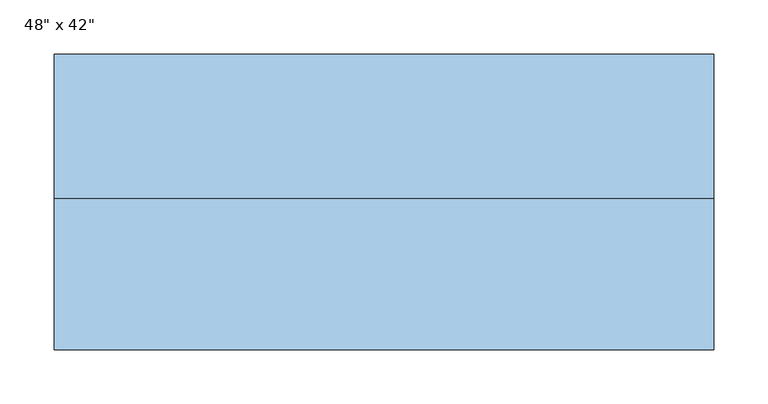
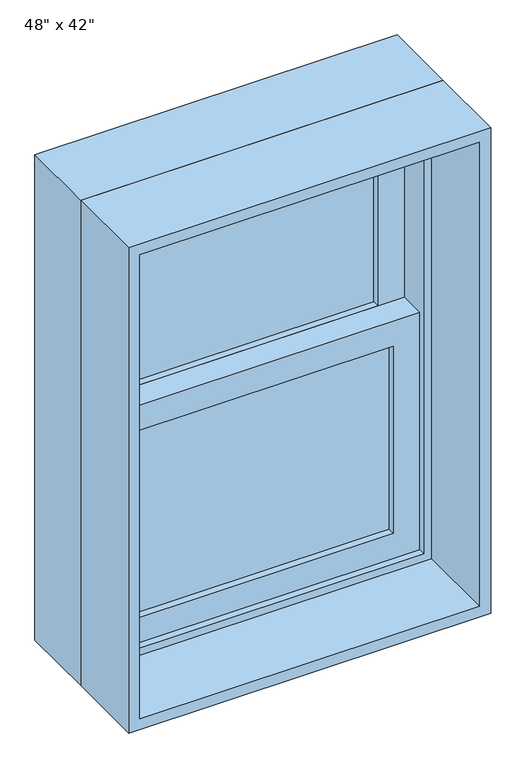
"""IFC4 building model written with IfcOpenShell, lengths in millimetres: window geometry."""

from ifc_helpers import new_model, si_unit, frame, origin, place, context, project, spatial, polyline, outline, extrude, source, transform, mapped, element, save


def window_8db50ffd(model_context):
    return source(origin(), model_context, "Body", "SweptSolid", [
        extrude(outline(polyline([(228.6, 57.15), (228.6, 50.8), (-228.6, 50.8), (-228.6, 57.15), (228.6, 57.15)])), frame((0.0, 0.0, 990.6), z_axis=(0.0, 0.0, 1.0), x_axis=(1.0, 0.0, 0.0)), (0.0, 0.0, 1.0), 333.375),
        extrude(outline(polyline([(-228.6, 44.45), (228.6, 44.45), (228.6, 38.1), (-228.6, 38.1), (-228.6, 44.45)])), frame((0.0, 0.0, 990.6), z_axis=(0.0, 0.0, 1.0), x_axis=(1.0, 0.0, 0.0)), (0.0, 0.0, 1.0), 333.375),
        extrude(outline(polyline([(228.6, 101.6), (228.6, 95.25), (-228.6, 95.25), (-228.6, 101.6), (228.6, 101.6)])), frame((0.0, 0.0, 1368.425), z_axis=(0.0, 0.0, 1.0), x_axis=(1.0, 0.0, 0.0)), (0.0, 0.0, 1.0), 333.375),
        extrude(outline(polyline([(-228.6, 88.9), (228.6, 88.9), (228.6, 82.55), (-228.6, 82.55), (-228.6, 88.9)])), frame((0.0, 0.0, 1368.425), z_axis=(0.0, 0.0, 1.0), x_axis=(1.0, 0.0, 0.0)), (0.0, 0.0, 1.0), 333.375),
        extrude(outline(polyline([(1368.425, -273.05), (946.15, -273.05), (946.15, 273.05), (1368.425, 273.05), (1368.425, -273.05)]), holes=[polyline([(1323.975, 228.6), (990.6, 228.6), (990.6, -228.6), (1323.975, -228.6), (1323.975, 228.6)])]), frame((0.0, 25.4, 0.0), z_axis=(0.0, 1.0, 0.0), x_axis=(0.0, 0.0, 1.0)), (0.0, 0.0, 1.0), 44.45),
        extrude(outline(polyline([(1746.25, -273.05), (1323.975, -273.05), (1323.975, 273.05), (1746.25, 273.05), (1746.25, -273.05)]), holes=[polyline([(1701.8, 228.6), (1368.425, 228.6), (1368.425, -228.6), (1701.8, -228.6), (1701.8, 228.6)])]), frame((0.0, 69.85, 0.0), z_axis=(0.0, 1.0, 0.0), x_axis=(0.0, 0.0, 1.0)), (0.0, 0.0, 1.0), 44.45),
        extrude(outline(polyline([(1778.0, -304.8), (914.4, -304.8), (914.4, 304.8), (1778.0, 304.8), (1778.0, -304.8)]), holes=[polyline([(1746.25, 273.05), (946.15, 273.05), (946.15, -273.05), (1746.25, -273.05), (1746.25, 273.05)])]), frame((0.0, 12.7, 0.0), z_axis=(0.0, 1.0, 0.0), x_axis=(0.0, 0.0, 1.0)), (0.0, 0.0, 1.0), 133.35),
        extrude(outline(polyline([(1778.0, 304.8), (1778.0, -304.8), (914.4, -304.8), (914.4, 304.8), (1778.0, 304.8)]), holes=[polyline([(1758.95, 285.75), (933.45, 285.75), (933.45, -285.75), (1758.95, -285.75), (1758.95, 285.75)])]), frame((0.0, -127.0, 0.0), z_axis=(0.0, 1.0, 0.0), x_axis=(0.0, 0.0, 1.0)), (0.0, 0.0, 1.0), 139.7),
    ])


if __name__ == "__main__":
    model = new_model("IFC4")
    model_context = context("Model", 3, world=origin())
    ifc_project = project(units=[si_unit("LENGTHUNIT", "METRE", prefix="MILLI")], contexts=[model_context])
    site = spatial("IfcSite", under=ifc_project)
    building = spatial("IfcBuilding", under=site)
    placement = place(None, origin())
    window_shape = window_8db50ffd(model_context)
    element("IfcWindow", 1, ObjectType="Planitar-Double-Hung-Single : 48\" x 42\"", at=placement, inside=building, context=model_context, shape_type="MappedRepresentation", body=[
        mapped(window_shape, transform((0.0, 0.0, 0.0), x_axis=(1.0, 0.0, 0.0), y_axis=(0.0, 1.0, 0.0), z_axis=(0.0, 0.0, 1.0))),
    ])
    save(model, "model.ifc")
